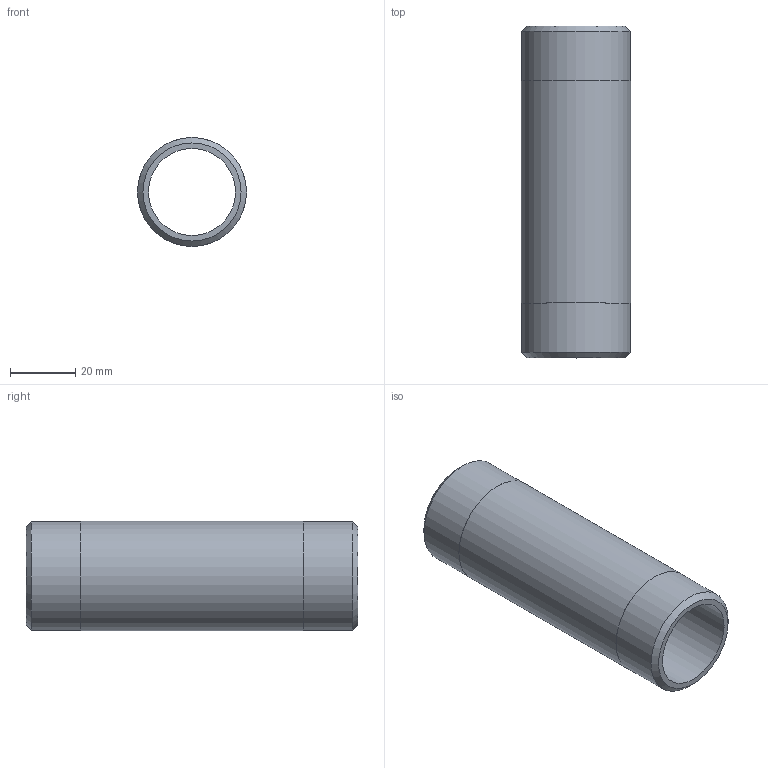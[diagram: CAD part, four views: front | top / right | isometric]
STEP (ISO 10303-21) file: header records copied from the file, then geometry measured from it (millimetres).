
FILE_DESCRIPTION(/* description */ (''),/* implementation_level */ '2;1');
FILE_NAME(/* name */ 'C:/Users/drich/Desktop/BPN1-4 v1.step',/* time_stamp */ '2020-01-03T14:15:48-06:00',/* author */ (''),/* organization */ (''),/* preprocessor_version */ 'ST-DEVELOPER v18',/* originating_system */ 'Autodesk Translation Framework v8.12.0.6',/* authorisation */ '');
FILE_SCHEMA (('AUTOMOTIVE_DESIGN { 1 0 10303 214 3 1 1 }'));
Length unit declared in the file: inch
Products named in the file (1): BPN1-4
Bounding box: 33.4 x 101.6 x 33.4 mm (x, y, z)
Volume: 32007.2 mm3; surface area: 19587.9 mm2
Topology: 1 solids, 1 shells, 10 faces, 24 edges, 18 vertices
Faces by surface type: cylinder 4, plane 4, cone 2
Full cylindrical faces by diameter (mm): 26.645 x1, 33.35 x2, 33.401 x1
Entity records: 360 total; most frequent: DIRECTION 64, CARTESIAN_POINT 53, ORIENTED_EDGE 48, AXIS2_PLACEMENT_3D 29, EDGE_CURVE 24, CIRCLE 18, VERTEX_POINT 18, EDGE_LOOP 14
